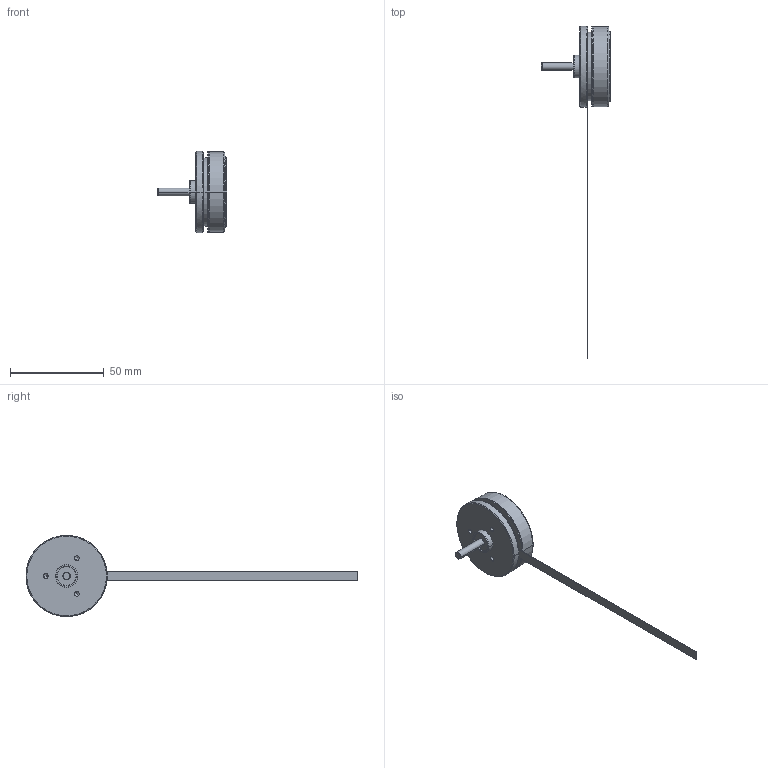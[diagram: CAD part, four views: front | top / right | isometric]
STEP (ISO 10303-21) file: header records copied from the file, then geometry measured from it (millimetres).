
FILE_DESCRIPTION((''),'2;1');
FILE_NAME('1147043','2016-10-10T',('mmagpetk'),(''),'CREO PARAMETRIC BY PTC INC, 2016050','CREO PARAMETRIC BY PTC INC, 2016050','');
FILE_SCHEMA(('CONFIG_CONTROL_DESIGN'));
Length unit declared in the file: millimetre
Products named in the file (1): 1147043
Bounding box: 37 x 176.6 x 43.2 mm (x, y, z)
Volume: 23065.6 mm3; surface area: 7652.1 mm2
Topology: 1 solids, 1 shells, 76 faces, 165 edges, 97 vertices
Faces by surface type: cylinder 27, plane 18, cone 17, torus 10, revolution 4
Entity records: 2666 total; most frequent: DIRECTION 396, CARTESIAN_POINT 378, ORIENTED_EDGE 318, AXIS2_PLACEMENT_3D 167, PRESENTATION_STYLE_ASSIGNMENT 160, STYLED_ITEM 160, CURVE_STYLE 159, EDGE_CURVE 159
